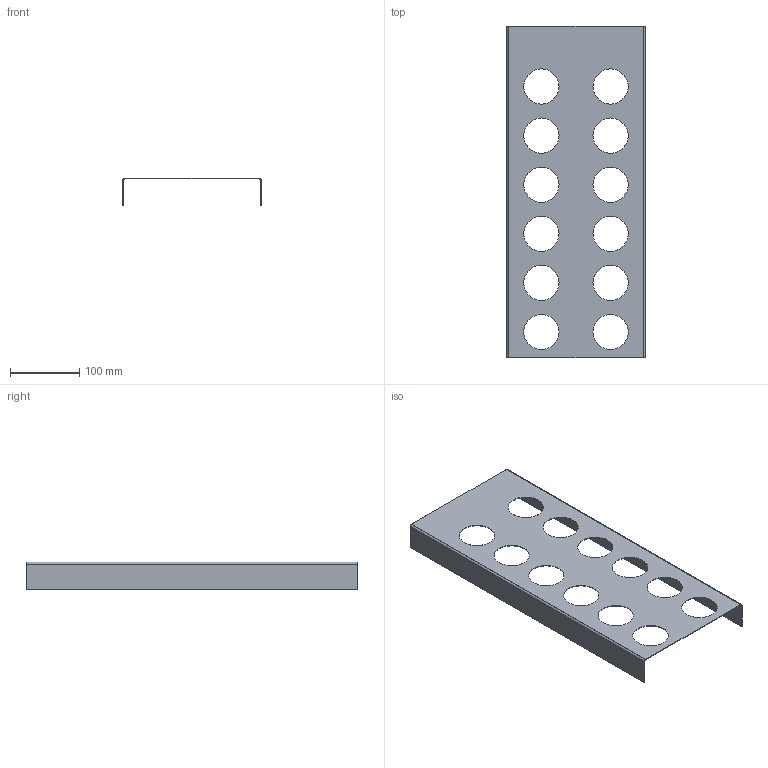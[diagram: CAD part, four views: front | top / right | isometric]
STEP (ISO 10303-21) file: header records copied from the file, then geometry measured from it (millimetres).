
FILE_DESCRIPTION (( 'STEP AP214' ), '1' );
FILE_NAME ('Gewuerzeinsatz_68305-01.STEP', '2010-10-25T13:29:56', ( 'grass' ), ( '' ), 'SwSTEP 2.0', 'SolidWorks 2010', '' );
FILE_SCHEMA (( 'AUTOMOTIVE_DESIGN' ));
Length unit declared in the file: millimetre
Products named in the file (1): Gewuerzeinsatz_68305-01
Bounding box: 200 x 479 x 40 mm (x, y, z)
Volume: 107620.2 mm3; surface area: 218672.8 mm2
Topology: 1 solids, 1 shells, 38 faces, 108 edges, 72 vertices
Faces by surface type: cylinder 28, plane 10
Entity records: 1350 total; most frequent: DIRECTION 242, CARTESIAN_POINT 219, ORIENTED_EDGE 216, EDGE_CURVE 108, AXIS2_PLACEMENT_3D 95, VERTEX_POINT 72, EDGE_LOOP 62, CIRCLE 56
